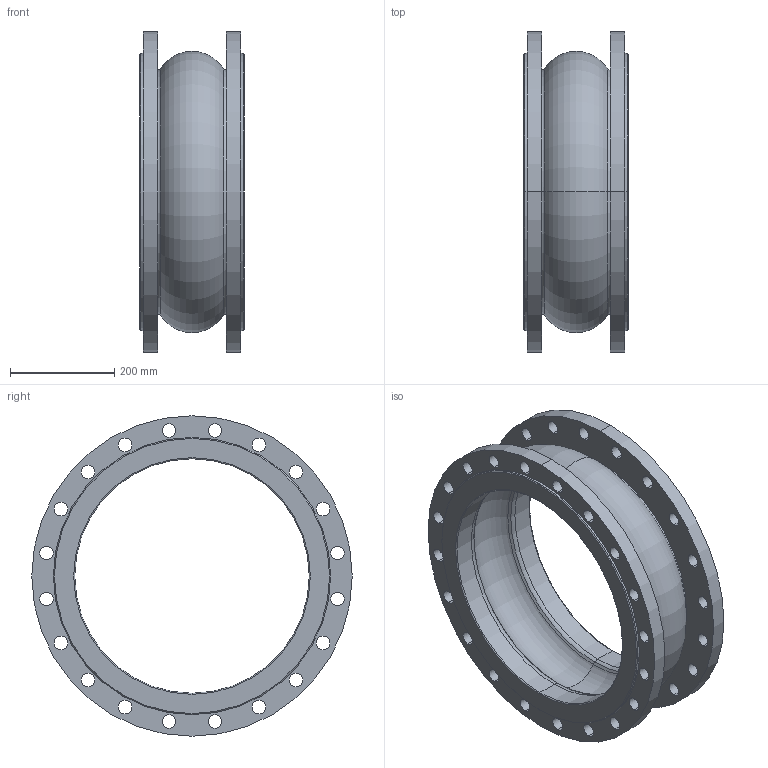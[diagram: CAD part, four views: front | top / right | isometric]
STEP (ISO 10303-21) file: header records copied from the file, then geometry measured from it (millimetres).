
FILE_DESCRIPTION (( 'STEP AP203' ), '1' );
FILE_NAME ('F8_PN10_DN450.STEP', '2012-10-31T09:21:40', ( 'luca.saino' ), ( 'Hewlett-Packard Company' ), 'SwSTEP 2.0', 'SolidWorks 2012', '' );
FILE_SCHEMA (( 'CONFIG_CONTROL_DESIGN' ));
Length unit declared in the file: millimetre
Products named in the file (1): F8_PN10_DN450
Bounding box: 200 x 615 x 615 mm (x, y, z)
Volume: 11149674.2 mm3; surface area: 1309689.2 mm2
Topology: 1 solids, 1 shells, 122 faces, 324 edges, 208 vertices
Faces by surface type: cylinder 92, torus 16, cone 8, plane 6
Entity records: 4141 total; most frequent: DIRECTION 794, CARTESIAN_POINT 655, ORIENTED_EDGE 648, AXIS2_PLACEMENT_3D 347, EDGE_CURVE 324, CIRCLE 224, EDGE_LOOP 208, VERTEX_POINT 208
